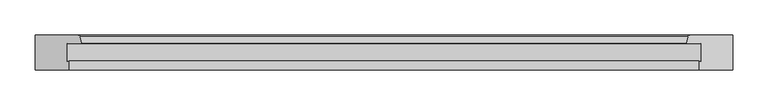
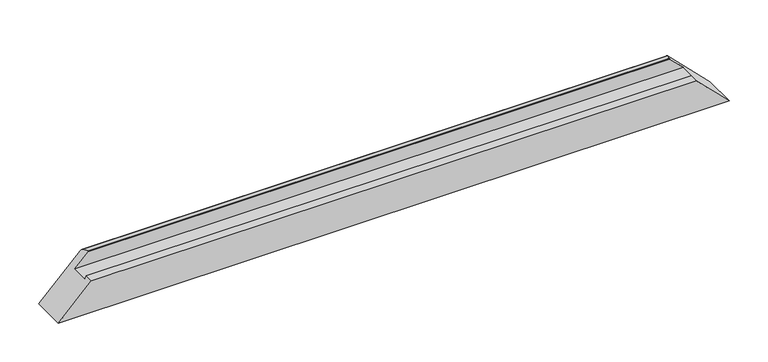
"""IFC4 building model written with IfcOpenShell, lengths in millimetres: proxy geometry, Weiku - Montante - Caixilho 02.2.01.005 : Weiku - Montante - Caixilho 02.2.01.005."""

from ifc_helpers import new_model, si_unit, frame, origin, place, context, project, spatial, ellipse_curve, source, transform, mapped, element, save
from ifc_brep_helpers import plane_surface, cylinder_surface, advanced_brep


def generic_models_8324c285(model_context):
    return source(origin(), model_context, "Body", "AdvancedBrep", [
        advanced_brep(
        [(-451.5, -12.5, 46.0), (451.5, -12.5, 46.0), (431.3909676, -12.5, 66.1090324), (-431.3909676, -12.5, 66.1090324), (-451.5, -37.8314286, 46.0), (451.5, -37.8314286, 46.0), (-448.5, -37.027581, 49.0), (448.5, -37.027581, 49.0), (-448.5, -50.0, 49.0), (448.5, -50.0, 49.0), (497.5, -50.0, 0.0), (-497.5, -50.0, 0.0), (-497.5, 0.0, 0.0), (497.5, 0.0, 0.0), (-435.9997332, 0.0, 61.5002668), (435.9997332, 0.0, 61.5002668), (-430.618227, -11.4929448, 66.881773), (430.618227, -11.4929448, 66.881773), (433.1019557, -2.2235429, 64.3980443), (-433.1019557, -2.2235429, 64.3980443)],
        [
            (0, 1),
            (1, 2),
            (2, 3),
            (3, 0),
            (4, 5),
            (5, 1),
            (0, 4),
            (6, 7),
            (7, 5),
            (4, 6),
            (8, 9),
            (9, 7),
            (6, 8),
            (10, 9),
            (8, 11),
            (11, 10),
            (11, 12),
            (12, 13),
            (13, 10),
            (12, 14),
            (14, 15),
            (15, 13),
            (16, 17),
            (17, 18),
            (18, 19),
            (19, 16),
            (3, 16, ellipse_curve(frame((-431.3909676, -11.7, 66.1090324), z_axis=(-0.7071067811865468, 0.0, 0.7071067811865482), x_axis=(-0.7071067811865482, 0.0, -0.7071067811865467)), 1.1313708, 0.8)),
            (19, 14, ellipse_curve(frame((-435.9997332, -3.0, 61.5002668), z_axis=(-0.7071067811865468, 0.0, 0.7071067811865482), x_axis=(-0.7071067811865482, 0.0, -0.7071067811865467)), 4.2426407, 3.0)),
            (15, 18, ellipse_curve(frame((435.9997332, -3.0, 61.5002668), z_axis=(0.707106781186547, 0.0, 0.7071067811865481), x_axis=(-0.7071067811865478, 0.0, 0.707106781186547)), 4.2426407, 3.0)),
            (17, 2, ellipse_curve(frame((431.3909676, -11.7, 66.1090324), z_axis=(0.707106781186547, 0.0, 0.7071067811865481), x_axis=(-0.7071067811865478, 0.0, 0.707106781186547)), 1.1313708, 0.8)),
        ],
        [
            plane_surface(frame((-497.5, -12.5, 66.1090324), z_axis=(0.0, -1.0, 0.0), x_axis=(1.0, 0.0, 0.0))),
            plane_surface(frame((-497.5, -12.5, 46.0), z_axis=(0.0, 0.0, 1.0), x_axis=(1.0, 0.0, 0.0))),
            plane_surface(frame((-497.5, -37.8314286, 46.0), z_axis=(0.0, 0.9659258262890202, -0.2588190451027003), x_axis=(1.0, 0.0, 0.0))),
            plane_surface(frame((-497.5, -37.027581, 49.0), z_axis=(0.0, 0.0, 1.0), x_axis=(1.0, 0.0, 0.0))),
            plane_surface(frame((-497.5, -50.0, 49.0), z_axis=(0.0, -1.0, 0.0), x_axis=(1.0, 0.0, 0.0))),
            plane_surface(frame((-497.5, -50.0, 0.0), z_axis=(0.0, 0.0, -1.0), x_axis=(1.0, 0.0, 0.0))),
            plane_surface(frame((-497.5, 0.0, 0.0), z_axis=(0.0, 1.0, 0.0), x_axis=(1.0, 0.0, 0.0))),
            plane_surface(frame((-497.5, -2.2235429, 64.3980443), z_axis=(0.0, 0.2588190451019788, 0.9659258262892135), x_axis=(1.0, 0.0, 0.0))),
            plane_surface(frame((-567.5, 15.0, -70.0), z_axis=(-0.7071067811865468, 0.0, 0.7071067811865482), x_axis=(0.0, -1.0, 0.0))),
            plane_surface(frame((427.5, 15.0, 70.0), z_axis=(0.707106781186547, 0.0, 0.7071067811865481), x_axis=(0.0, -1.0, 0.0))),
            cylinder_surface(frame((-497.5, -11.7, 66.1090324), z_axis=(-1.0, 0.0, 0.0), x_axis=(0.0, -1.0, 0.0)), 0.8),
            cylinder_surface(frame((-497.5, -3.0, 61.5002668), z_axis=(-1.0, 0.0, 0.0), x_axis=(0.0, -1.0, 0.0)), 3.0),
        ],
        [
            (0, [[1, 2, 3, 4]]),
            (1, [[5, 6, -1, 7]]),
            (2, [[8, 9, -5, 10]]),
            (3, [[11, 12, -8, 13]]),
            (4, [[14, -11, 15, 16]]),
            (5, [[17, 18, 19, -16]]),
            (6, [[20, 21, 22, -18]]),
            (7, [[23, 24, 25, 26]]),
            (8, [[27, -26, 28, -20, -17, -15, -13, -10, -7, -4]]),
            (9, [[-6, -9, -12, -14, -19, -22, 29, -24, 30, -2]]),
            (10, [[-3, -30, -23, -27]]),
            (11, [[-25, -29, -21, -28]]),
        ],
    ),
    ])


if __name__ == "__main__":
    model = new_model("IFC4")
    model_context = context("Model", 3, world=origin())
    ifc_project = project(units=[si_unit("LENGTHUNIT", "METRE", prefix="MILLI")], contexts=[model_context])
    site = spatial("IfcSite", under=ifc_project)
    building = spatial("IfcBuilding", under=site)
    placement = place(None, origin())
    generic_models_shape = generic_models_8324c285(model_context)
    element("IfcBuildingElementProxy", 1, Name="Weiku - Montante - Caixilho 02.2.01.005 : Weiku - Montante - Caixilho 02.2.01.005", ObjectType="Weiku - Montante - Caixilho 02.2.01.005 : Weiku - Montante - Caixilho 02.2.01.005", at=placement, inside=building, context=model_context, shape_type="MappedRepresentation", body=[
        mapped(generic_models_shape, transform((0.0, 0.0, 0.0), x_axis=(1.0, 0.0, 0.0), y_axis=(0.0, 1.0, 0.0), z_axis=(0.0, 0.0, 1.0))),
    ])
    save(model, "model.ifc")
